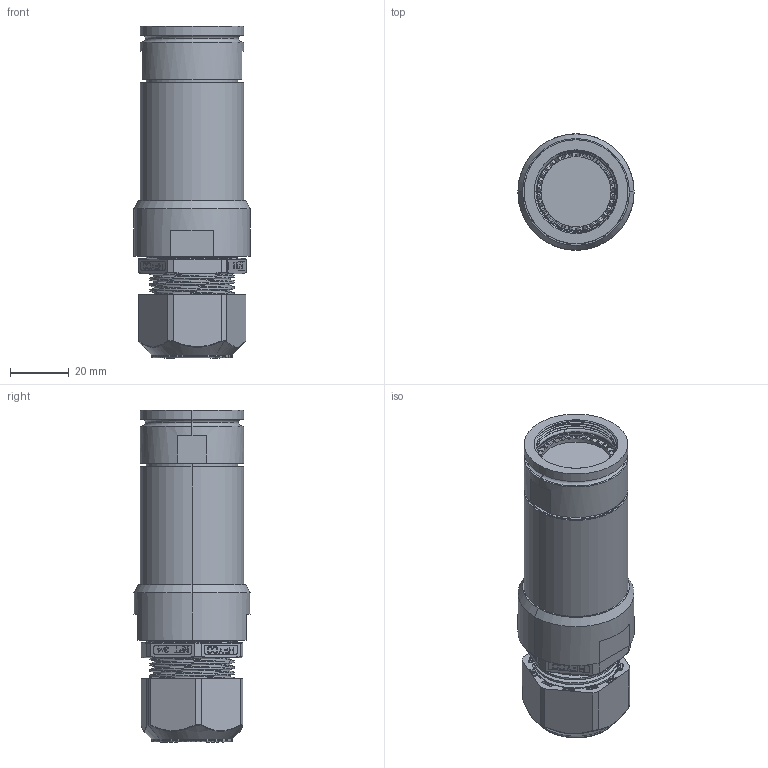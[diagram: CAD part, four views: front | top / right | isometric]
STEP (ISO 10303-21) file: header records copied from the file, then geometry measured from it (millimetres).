
FILE_DESCRIPTION (( 'STEP AP214' ), '1' );
FILE_NAME ('Q38SHELL-STX-19-XXXX-GL.STEP', '2025-09-09T21:14:39', ( '' ), ( '' ), 'SwSTEP 2.0', 'SolidWorks 2024', '' );
FILE_SCHEMA (( 'AUTOMOTIVE_DESIGN' ));
Length unit declared in the file: millimetre
Products named in the file (1): Q38SHELL-STX-19-XXXX-GL
Bounding box: 39.62 x 39.62 x 113.08 mm (x, y, z)
Surface area: 34402.7 mm2 (no closed solid volume)
Topology: 0 solids, 8 shells, 1345 faces, 3607 edges, 2332 vertices
Faces by surface type: plane 708, cylinder 237, bspline 140, torus 121, cone 119, sphere 20
Entity records: 62948 total; most frequent: CARTESIAN_POINT 36073, ORIENTED_EDGE 7165, EDGE_CURVE 3607, DIRECTION 3193, B_SPLINE_CURVE_WITH_KNOTS 2833, VERTEX_POINT 2332, AXIS2_PLACEMENT_3D 1466, EDGE_LOOP 1415
